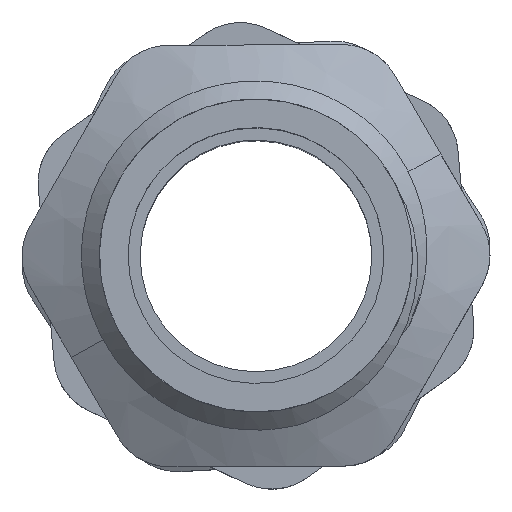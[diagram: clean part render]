
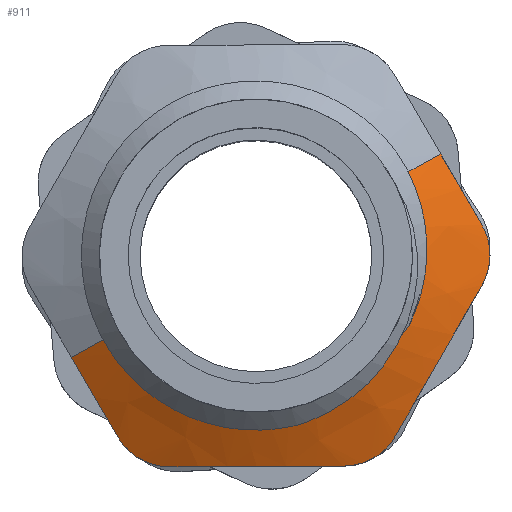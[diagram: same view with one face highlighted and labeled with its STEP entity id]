
A CAD part, top view. The second image highlights one B-rep face of the part: STEP entity #911.
In plain terms, the highlighted conical face has half-angle 63.424 degrees and reference radius 0 mm.
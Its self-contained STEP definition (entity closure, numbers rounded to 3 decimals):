
#134=CARTESIAN_POINT('Control Point',(5.091,-2.311,-2.39)) ;
#135=CARTESIAN_POINT('Control Point',(5.627,-1.114,-2.387)) ;
#136=CARTESIAN_POINT('Control Point',(5.784,0.247,-2.384)) ;
#137=CARTESIAN_POINT('Control Point',(5.498,1.567,-2.381)) ;
#138=CARTESIAN_POINT('Control Point',(4.875,2.685,-2.378)) ;
#139=CARTESIAN_POINT('Vertex',(5.091,-2.311,-2.39)) ;
#141=CARTESIAN_POINT('Vertex',(4.875,2.685,-2.378)) ;
#455=CARTESIAN_POINT('Vertex',(3.345,-3.981,-2.195)) ;
#459=CARTESIAN_POINT('Control Point',(5.091,-2.311,-2.39)) ;
#460=CARTESIAN_POINT('Control Point',(4.631,-3.011,-2.326)) ;
#461=CARTESIAN_POINT('Control Point',(4.024,-3.582,-2.26)) ;
#462=CARTESIAN_POINT('Control Point',(3.345,-3.981,-2.195)) ;
#658=CARTESIAN_POINT('Vertex',(-4.555,-2.509,-2.195)) ;
#661=CARTESIAN_POINT('Axis2P3D Location',(0.,0.,-2.195)) ;
#737=CARTESIAN_POINT('Axis2P3D Location',(0.,0.,0.406)) ;
#742=CARTESIAN_POINT('Line Origine',(3.946,2.173,-1.847)) ;
#746=CARTESIAN_POINT('Vertex',(6.133,3.378,-3.096)) ;
#811=CARTESIAN_POINT('Vertex',(-6.133,-3.378,-3.096)) ;
#814=CARTESIAN_POINT('Line Origine',(-3.946,-2.173,-1.847)) ;
#835=CARTESIAN_POINT('Control Point',(-6.133,-3.378,-3.096)) ;
#836=CARTESIAN_POINT('Control Point',(-5.745,-4.046,-3.087)) ;
#837=CARTESIAN_POINT('Control Point',(-5.356,-4.714,-3.135)) ;
#838=CARTESIAN_POINT('Control Point',(-4.972,-5.372,-3.239)) ;
#839=CARTESIAN_POINT('Control Point',(-4.598,-6.016,-3.381)) ;
#840=CARTESIAN_POINT('Vertex',(-4.598,-6.016,-3.381)) ;
#844=CARTESIAN_POINT('Control Point',(-4.598,-6.016,-3.381)) ;
#845=CARTESIAN_POINT('Control Point',(-4.396,-6.363,-3.458)) ;
#846=CARTESIAN_POINT('Control Point',(-4.098,-6.681,-3.504)) ;
#847=CARTESIAN_POINT('Control Point',(-3.689,-6.915,-3.504)) ;
#848=CARTESIAN_POINT('Control Point',(-3.264,-7.011,-3.458)) ;
#849=CARTESIAN_POINT('Control Point',(-2.862,-7.01,-3.381)) ;
#850=CARTESIAN_POINT('Vertex',(-2.862,-7.01,-3.381)) ;
#854=CARTESIAN_POINT('Control Point',(-2.862,-7.01,-3.381)) ;
#855=CARTESIAN_POINT('Control Point',(-1.452,-7.005,-3.112)) ;
#856=CARTESIAN_POINT('Control Point',(0.024,-7.,-2.977)) ;
#857=CARTESIAN_POINT('Control Point',(1.501,-6.995,-3.112)) ;
#858=CARTESIAN_POINT('Control Point',(2.911,-6.99,-3.381)) ;
#859=CARTESIAN_POINT('Vertex',(2.911,-6.99,-3.381)) ;
#863=CARTESIAN_POINT('Control Point',(2.911,-6.99,-3.381)) ;
#864=CARTESIAN_POINT('Control Point',(3.313,-6.988,-3.458)) ;
#865=CARTESIAN_POINT('Control Point',(3.737,-6.889,-3.504)) ;
#866=CARTESIAN_POINT('Control Point',(4.144,-6.652,-3.504)) ;
#867=CARTESIAN_POINT('Control Point',(4.44,-6.332,-3.458)) ;
#868=CARTESIAN_POINT('Control Point',(4.64,-5.984,-3.381)) ;
#869=CARTESIAN_POINT('Vertex',(4.64,-5.984,-3.381)) ;
#873=CARTESIAN_POINT('Control Point',(4.64,-5.984,-3.381)) ;
#874=CARTESIAN_POINT('Control Point',(5.34,-4.76,-3.112)) ;
#875=CARTESIAN_POINT('Control Point',(6.074,-3.479,-2.977)) ;
#876=CARTESIAN_POINT('Control Point',(6.808,-2.197,-3.112)) ;
#877=CARTESIAN_POINT('Control Point',(7.509,-0.974,-3.381)) ;
#878=CARTESIAN_POINT('Vertex',(7.509,-0.974,-3.381)) ;
#882=CARTESIAN_POINT('Control Point',(7.509,-0.974,-3.381)) ;
#883=CARTESIAN_POINT('Control Point',(7.709,-0.625,-3.458)) ;
#884=CARTESIAN_POINT('Control Point',(7.834,-0.208,-3.504)) ;
#885=CARTESIAN_POINT('Control Point',(7.833,0.263,-3.504)) ;
#886=CARTESIAN_POINT('Control Point',(7.704,0.679,-3.458)) ;
#887=CARTESIAN_POINT('Control Point',(7.502,1.026,-3.381)) ;
#888=CARTESIAN_POINT('Vertex',(7.502,1.026,-3.381)) ;
#892=CARTESIAN_POINT('Control Point',(6.133,3.378,-3.096)) ;
#893=CARTESIAN_POINT('Control Point',(6.596,2.584,-3.107)) ;
#894=CARTESIAN_POINT('Control Point',(7.056,1.793,-3.212)) ;
#895=CARTESIAN_POINT('Control Point',(7.502,1.026,-3.381)) ;
#662=DIRECTION('Axis2P3D Direction',(0.,0.,1.)) ;
#738=DIRECTION('Axis2P3D Direction',(0.,0.,-1.)) ;
#739=DIRECTION('Axis2P3D XDirection',(-0.876,-0.482,0.)) ;
#743=DIRECTION('Vector Direction',(0.783,0.432,-0.447)) ;
#815=DIRECTION('Vector Direction',(-0.783,-0.432,-0.447)) ;
#663=AXIS2_PLACEMENT_3D('Circle Axis2P3D',#661,#662,$) ;
#740=AXIS2_PLACEMENT_3D('Cone Axis2P3D',#737,#738,#739) ;
#898=ORIENTED_EDGE('',*,*,#143,.F.) ;
#899=ORIENTED_EDGE('',*,*,#463,.T.) ;
#900=ORIENTED_EDGE('',*,*,#665,.F.) ;
#901=ORIENTED_EDGE('',*,*,#818,.T.) ;
#902=ORIENTED_EDGE('',*,*,#842,.T.) ;
#903=ORIENTED_EDGE('',*,*,#852,.T.) ;
#904=ORIENTED_EDGE('',*,*,#861,.T.) ;
#905=ORIENTED_EDGE('',*,*,#871,.T.) ;
#906=ORIENTED_EDGE('',*,*,#880,.T.) ;
#907=ORIENTED_EDGE('',*,*,#890,.T.) ;
#908=ORIENTED_EDGE('',*,*,#896,.F.) ;
#909=ORIENTED_EDGE('',*,*,#748,.F.) ;
#744=VECTOR('Line Direction',#743,1.) ;
#816=VECTOR('Line Direction',#815,1.) ;
#911=ADVANCED_FACE('\X2\51E04F554F53\X0\.2',(#910),#741,.T.) ;
#133=B_SPLINE_CURVE_WITH_KNOTS('',4,(#134,#135,#136,#137,#138),.UNSPECIFIED.,.F.,.U.,(5,5),(0.,6.291),.UNSPECIFIED.) ;
#458=B_SPLINE_CURVE_WITH_KNOTS('',3,(#459,#460,#461,#462),.UNSPECIFIED.,.F.,.U.,(4,4),(0.,3.042),.UNSPECIFIED.) ;
#834=B_SPLINE_CURVE_WITH_KNOTS('',4,(#835,#836,#837,#838,#839),.UNSPECIFIED.,.F.,.U.,(5,5),(0.,3.673),.UNSPECIFIED.) ;
#843=B_SPLINE_CURVE_WITH_KNOTS('',5,(#844,#845,#846,#847,#848,#849),.UNSPECIFIED.,.F.,.U.,(6,6),(0.,2.477),.UNSPECIFIED.) ;
#853=B_SPLINE_CURVE_WITH_KNOTS('',4,(#854,#855,#856,#857,#858),.UNSPECIFIED.,.F.,.U.,(5,5),(1.444,8.397),.UNSPECIFIED.) ;
#862=B_SPLINE_CURVE_WITH_KNOTS('',5,(#863,#864,#865,#866,#867,#868),.UNSPECIFIED.,.F.,.U.,(6,6),(0.,2.477),.UNSPECIFIED.) ;
#872=B_SPLINE_CURVE_WITH_KNOTS('',4,(#873,#874,#875,#876,#877),.UNSPECIFIED.,.F.,.U.,(5,5),(1.444,8.397),.UNSPECIFIED.) ;
#881=B_SPLINE_CURVE_WITH_KNOTS('',5,(#882,#883,#884,#885,#886,#887),.UNSPECIFIED.,.F.,.U.,(6,6),(0.,2.477),.UNSPECIFIED.) ;
#891=B_SPLINE_CURVE_WITH_KNOTS('',3,(#892,#893,#894,#895),.UNSPECIFIED.,.F.,.U.,(4,4),(0.,3.28),.UNSPECIFIED.) ;
#664=CIRCLE('generated circle',#663,5.2) ;
#741=CONICAL_SURFACE('Cone',#740,0.,1.107) ;
#143=EDGE_CURVE('',#140,#142,#133,.T.) ;
#463=EDGE_CURVE('',#140,#456,#458,.T.) ;
#665=EDGE_CURVE('',#659,#456,#664,.T.) ;
#748=EDGE_CURVE('',#142,#747,#745,.T.) ;
#818=EDGE_CURVE('',#659,#812,#817,.T.) ;
#842=EDGE_CURVE('',#812,#841,#834,.T.) ;
#852=EDGE_CURVE('',#841,#851,#843,.T.) ;
#861=EDGE_CURVE('',#851,#860,#853,.T.) ;
#871=EDGE_CURVE('',#860,#870,#862,.T.) ;
#880=EDGE_CURVE('',#870,#879,#872,.T.) ;
#890=EDGE_CURVE('',#879,#889,#881,.T.) ;
#896=EDGE_CURVE('',#747,#889,#891,.T.) ;
#897=EDGE_LOOP('',(#898,#899,#900,#901,#902,#903,#904,#905,#906,#907,#908,#909)) ;
#910=FACE_OUTER_BOUND('',#897,.T.) ;
#745=LINE('Line',#742,#744) ;
#817=LINE('Line',#814,#816) ;
#140=VERTEX_POINT('',#139) ;
#142=VERTEX_POINT('',#141) ;
#456=VERTEX_POINT('',#455) ;
#659=VERTEX_POINT('',#658) ;
#747=VERTEX_POINT('',#746) ;
#812=VERTEX_POINT('',#811) ;
#841=VERTEX_POINT('',#840) ;
#851=VERTEX_POINT('',#850) ;
#860=VERTEX_POINT('',#859) ;
#870=VERTEX_POINT('',#869) ;
#879=VERTEX_POINT('',#878) ;
#889=VERTEX_POINT('',#888) ;
